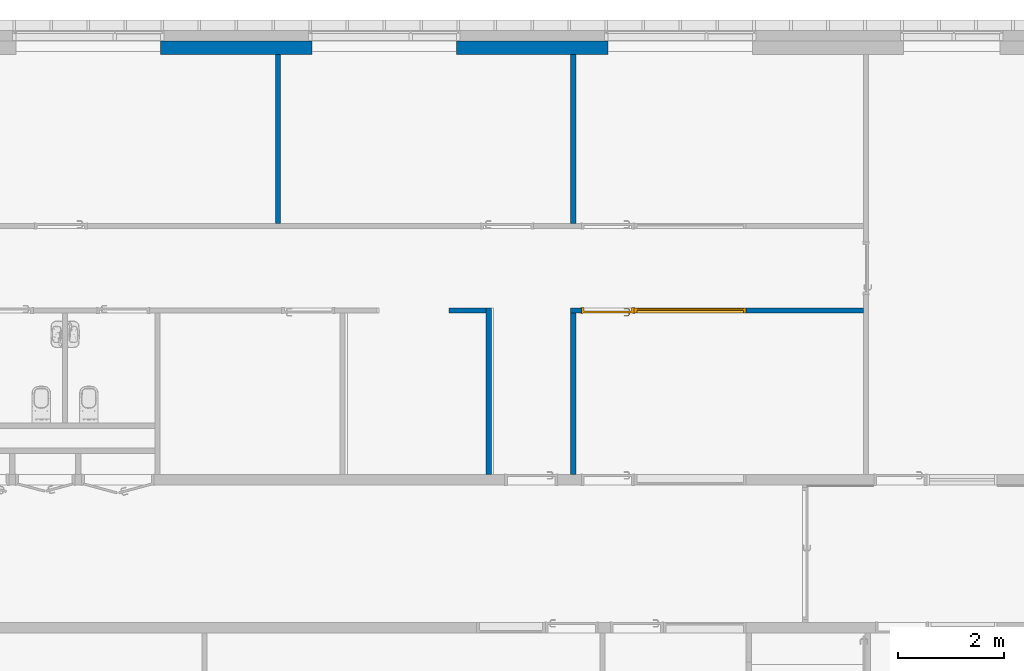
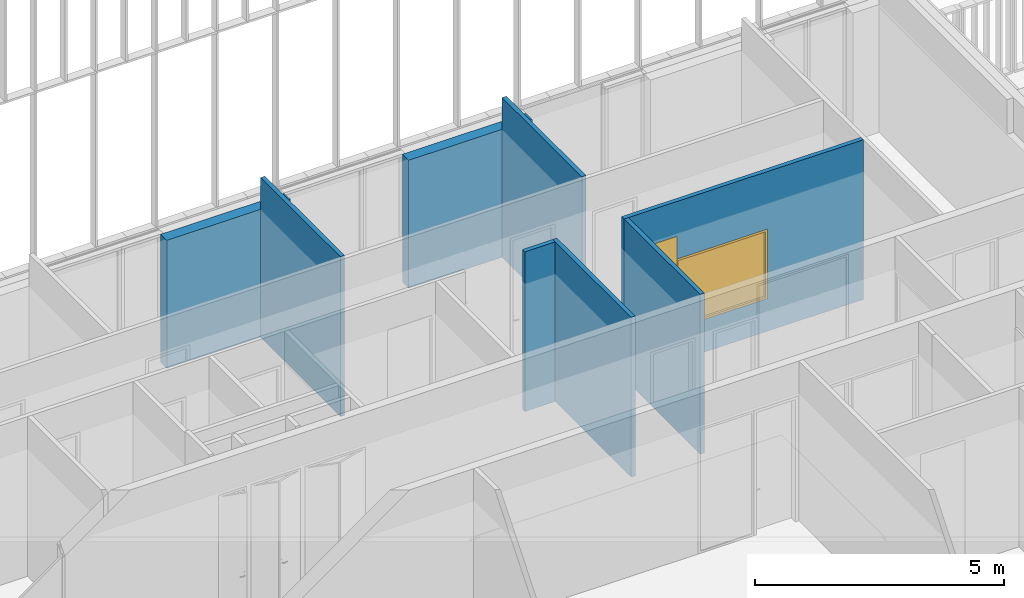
# One storey, part 156 of 240: 8 walls, 1 door, 1 window, 2 openings.
"""IFC2X3 building model written with IfcOpenShell, lengths in centimetres."""

from ifc_helpers import new_model, entity, si_unit, converted_unit, derived_unit, direction, frame, frame_2d, origin, place, context, subcontext, project, spatial, polyline, rectangle, extrude, clip, bounded_halfspace, faceted_brep, source, transform, mapped, material, material_list, layer, layer_set, layer_usage, type_object, type_shapes, element, fill, save


model = new_model("IFC2X3")

# Units and contexts
model_context = context("Model", 3, precision=0.001, world=origin(), true_north=direction((6.12303176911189e-17, 1.0)))
body_context = subcontext(model_context, "Body", "Model", "MODEL_VIEW")
ifc_project = project(units=[si_unit("LENGTHUNIT", "METRE", prefix="CENTI"), si_unit("AREAUNIT", "SQUARE_METRE"), si_unit("VOLUMEUNIT", "CUBIC_METRE"), converted_unit("PLANEANGLEUNIT", "DEGREE", entity("IfcRatioMeasure", 0.0174532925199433), si_unit("PLANEANGLEUNIT", "RADIAN"), dimensions=[0, 0, 0, 0, 0, 0, 0]), si_unit("MASSUNIT", "GRAM", prefix="KILO"), derived_unit("MASSDENSITYUNIT", [(si_unit("MASSUNIT", "GRAM", prefix="KILO"), 1), (si_unit("LENGTHUNIT", "METRE"), -3)]), si_unit("TIMEUNIT", "SECOND"), si_unit("FREQUENCYUNIT", "HERTZ"), si_unit("THERMODYNAMICTEMPERATUREUNIT", "DEGREE_CELSIUS"), derived_unit("THERMALTRANSMITTANCEUNIT", [(si_unit("MASSUNIT", "GRAM", prefix="KILO"), 1), (si_unit("THERMODYNAMICTEMPERATUREUNIT", "KELVIN"), -1), (si_unit("TIMEUNIT", "SECOND"), -3)]), derived_unit("VOLUMETRICFLOWRATEUNIT", [(si_unit("LENGTHUNIT", "METRE"), 3), (si_unit("TIMEUNIT", "SECOND"), -1)]), si_unit("ELECTRICCURRENTUNIT", "AMPERE"), si_unit("ELECTRICVOLTAGEUNIT", "VOLT"), si_unit("POWERUNIT", "WATT"), si_unit("FORCEUNIT", "NEWTON", prefix="KILO"), si_unit("ILLUMINANCEUNIT", "LUX"), si_unit("LUMINOUSFLUXUNIT", "LUMEN"), si_unit("LUMINOUSINTENSITYUNIT", "CANDELA"), derived_unit("USERDEFINED", [(si_unit("MASSUNIT", "GRAM", prefix="KILO"), -1), (si_unit("LENGTHUNIT", "METRE"), -2), (si_unit("TIMEUNIT", "SECOND"), 3), (si_unit("LUMINOUSFLUXUNIT", "LUMEN"), 1)]), derived_unit("LINEARVELOCITYUNIT", [(si_unit("LENGTHUNIT", "METRE"), 1), (si_unit("TIMEUNIT", "SECOND"), -1)]), si_unit("PRESSUREUNIT", "PASCAL"), derived_unit("USERDEFINED", [(si_unit("LENGTHUNIT", "METRE"), -2), (si_unit("MASSUNIT", "GRAM", prefix="KILO"), 1), (si_unit("TIMEUNIT", "SECOND"), -2)])], contexts=[model_context])

# Site, building, storey
site_placement = place(None, frame((-2781.94577612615, 7442.24238424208, 0.0)))
site = spatial("IfcSite", under=ifc_project, at=site_placement, Name="Default", CompositionType="ELEMENT")
building_placement = place(site_placement, origin())
building = spatial("IfcBuilding", under=site, at=building_placement, CompositionType="ELEMENT")
storey_placement = place(building_placement, origin())
storey = spatial("IfcBuildingStorey", under=building, at=storey_placement, Name="N00 - COO", CompositionType="ELEMENT", Elevation=0.0)

# Walls
ifc_material_1 = material(Name="01 - Maçonnerie")
ifc_layer_1 = layer(ifc_material_1, 25.0)
ifc_layer_set_1 = layer_set([ifc_layer_1], Name="Mur de base:04 - Structure - béton - 25cm")
ifc_layer_usage_1 = layer_usage(ifc_layer_set_1, "AXIS2", "NEGATIVE", 12.5)
wall_type_1 = type_object("IfcWallType", Name="Mur de base:04 - Structure - béton - 25cm", PredefinedType="STANDARD", material=ifc_layer_set_1)
wall_1_placement = place(building_placement, frame((-5606.24987760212, -2.49999999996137, 0.0), z_axis=(0.0, 0.0, 1.0), x_axis=(-1.0, 0.0, 0.0)))
element("IfcWallStandardCase", 1, at=wall_1_placement, inside=storey, type_object=wall_type_1, material=ifc_layer_usage_1, Name="Mur de base:04 - Structure - béton - 25cm", ObjectType="Mur de base:04 - Structure - béton - 25cm", context=body_context, shape_type="SweptSolid", body=[
    extrude(rectangle(XDim=286.500000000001, YDim=25.0, at=frame_2d((143.25, 0.0), x_axis=(-1.0, 0.0))), origin(), (0.0, 0.0, 1.0), 313.0),
])
ifc_layer_usage_2 = layer_usage(ifc_layer_set_1, "AXIS2", "NEGATIVE", 12.5)
wall_2_placement = place(building_placement, frame((-6166.24987760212, -2.49999999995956, 0.0), z_axis=(0.0, 0.0, 1.0), x_axis=(-1.0, 0.0, 0.0)))
element("IfcWallStandardCase", 2, at=wall_2_placement, inside=storey, type_object=wall_type_1, material=ifc_layer_usage_2, Name="Mur de base:04 - Structure - béton - 25cm", ObjectType="Mur de base:04 - Structure - béton - 25cm", context=body_context, shape_type="SweptSolid", body=[
    extrude(rectangle(XDim=286.500000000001, YDim=25.0, at=frame_2d((143.25, 0.0), x_axis=(-1.0, 0.0))), origin(), (0.0, 0.0, 1.0), 313.0),
])

# Wall, openings, door, window
ifc_material_2 = material(Name="01 - Enduit/Plâtre")
ifc_layer_2 = layer(ifc_material_2, 1.3)
ifc_material_3 = material(Name="00 - Isolant")
ifc_layer_3 = layer(ifc_material_3, 7.4)
ifc_layer_4 = layer(ifc_material_2, 1.3)
ifc_layer_set_2 = layer_set([ifc_layer_2, ifc_layer_3, ifc_layer_4], Name="Mur de base:06 - cloisons - Ba13 10cm")
ifc_layer_usage_3 = layer_usage(ifc_layer_set_2, "AXIS2", "NEGATIVE", 5.0)
wall_type_2 = type_object("IfcWallType", Name="Mur de base:06 - cloisons - Ba13 10cm", PredefinedType="STANDARD", material=ifc_layer_set_2)
wall_3_placement = place(building_placement, frame((-5122.49987760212, -500.0, 0.0), z_axis=(0.0, 0.0, 1.0), x_axis=(-1.0, 0.0, 0.0)))
wall_3 = element("IfcWallStandardCase", 3, at=wall_3_placement, inside=storey, type_object=wall_type_2, material=ifc_layer_usage_3, Name="Mur de base:06 - cloisons - Ba13 10cm", ObjectType="Mur de base:06 - cloisons - Ba13 10cm", context=body_context, shape_type="Clipping", body=[
    clip(extrude(rectangle(XDim=554.000000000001, YDim=10.0000000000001, at=frame_2d((277.0, 2.75335310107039e-14), x_axis=(-1.0, 0.0))), origin(), (0.0, 0.0, 1.0), 391.0), bounded_halfspace(frame((0.0, -5.0, 391.0), z_axis=(0.0, 0.0, -1.0), x_axis=(0.0, -1.0, 0.0)), True, frame((0.0, -5.0, 391.0)), polyline([(0.0, 0.0), (554.0, 0.0), (554.0, 10.0), (544.0, 10.0), (0.0, 10.0), (0.0, 0.0)]))),
])
opening_1_placement = place(wall_3_placement, frame((434.0, -5.0, 0.0)))
opening_1 = element("IfcOpeningElement", 4, at=opening_1_placement, cuts=wall_3, Name="Int. Simple:PV (0.93m x 3.00m):1", ObjectType="Opening", context=body_context, shape_type="SweptSolid", body=[
    extrude(rectangle(XDim=304.500000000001, YDim=99.9999999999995, at=frame_2d((152.250000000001, 49.9999999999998), x_axis=(1.0, 0.0))), frame((0.0, 0.0, 0.0), z_axis=(0.0, 1.0, 0.0), x_axis=(0.0, 0.0, 1.0)), (0.0, 0.0, 1.0), 10.0),
])
opening_2_placement = place(wall_3_placement, frame((222.0, -5.0, 80.0)))
opening_2 = element("IfcOpeningElement", 5, at=opening_2_placement, cuts=wall_3, Name="châssis intérieur vitré:châssis intérieur vitré (h=170):1", ObjectType="Opening", context=body_context, shape_type="SweptSolid", body=[
    extrude(rectangle(XDim=170.0, YDim=211.999999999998, at=frame_2d((84.9999999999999, 105.999999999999), x_axis=(1.0, 0.0))), frame((0.0, 0.0, 0.0), z_axis=(0.0, 1.0, 0.0), x_axis=(0.0, 0.0, 1.0)), (0.0, 0.0, 1.0), 10.0),
])
ifc_material_4 = material(Name="Finition Peinture - Blanc satiné")
ifc_material_5 = material(Name="Bois - Panneau de porte")
ifc_material_6 = material(Name="Bois - Cadre de porte")
ifc_material_list_1 = material_list([ifc_material_4, ifc_material_5, ifc_material_6])
ifc_material_list_2 = material_list([ifc_material_4, ifc_material_5, ifc_material_6])
door_style = type_object("IfcDoorStyle", Name="PV (0.93m x 3.00m)", ConstructionType="NOTDEFINED", OperationType="SINGLE_SWING_RIGHT", ParameterTakesPrecedence=False, Sizeable=False, material=ifc_material_list_2)
shared_shape_1 = source(origin(), body_context, "Body", "Brep", [
    faceted_brep([(99.5000000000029, -0.500000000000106, 87.0), (99.5000000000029, -0.500000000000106, 108.0), (98.535276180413, -0.500000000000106, 108.399601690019), (97.5000000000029, -0.500000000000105, 108.535898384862), (96.4647238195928, -0.500000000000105, 108.399601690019), (95.500000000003, -0.500000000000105, 108.0), (95.5000000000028, -0.500000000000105, 87.0), (96.4647238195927, -0.500000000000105, 86.6003983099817), (97.5000000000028, -0.500000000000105, 86.464101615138), (98.5352761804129, -0.500000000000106, 86.6003983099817), (99.5000000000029, 0.0, 108.0), (99.5000000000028, 0.0, 87.0), (98.5352761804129, 0.0, 86.6003983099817), (97.5000000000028, 0.0, 86.464101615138), (96.4647238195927, 0.0, 86.6003983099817), (95.5000000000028, 0.0, 87.0), (95.5000000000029, 0.0, 108.0), (96.4647238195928, 0.0, 108.399601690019), (97.5000000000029, 0.0, 108.535898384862), (98.535276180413, 0.0, 108.399601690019)], [[[0, 1, 2, 3, 4, 5, 6, 7, 8, 9]], [[10, 11, 12, 13, 14, 15, 16, 17, 18, 19]], [[9, 12, 11, 0]], [[8, 13, 12, 9]], [[7, 14, 13, 8]], [[7, 6, 15, 14]], [[15, 6, 5, 16]], [[4, 17, 16, 5]], [[3, 18, 17, 4]], [[2, 19, 18, 3]], [[2, 1, 10, 19]], [[11, 10, 1, 0]]]),
    faceted_brep([(99.5000000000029, 4.0, 87.0), (99.5000000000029, 4.0, 108.0), (98.535276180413, 4.0, 108.399601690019), (97.5000000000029, 4.0, 108.535898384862), (96.4647238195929, 4.0, 108.399601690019), (95.500000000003, 4.0, 108.0), (95.5000000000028, 4.0, 87.0), (96.4647238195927, 4.0, 86.6003983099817), (97.5000000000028, 4.0, 86.464101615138), (98.5352761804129, 4.0, 86.6003983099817), (97.5000000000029, 4.49999999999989, 108.535898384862), (98.535276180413, 4.49999999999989, 108.399601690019), (99.5000000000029, 4.49999999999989, 108.0), (99.5000000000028, 4.49999999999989, 87.0), (98.5352761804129, 4.49999999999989, 86.6003983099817), (97.5000000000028, 4.49999999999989, 86.464101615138), (96.4647238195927, 4.49999999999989, 86.6003983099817), (95.5000000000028, 4.49999999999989, 87.0), (95.500000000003, 4.49999999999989, 108.0), (96.4647238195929, 4.49999999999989, 108.399601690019)], [[[0, 1, 2, 3, 4, 5, 6, 7, 8, 9]], [[10, 11, 12, 13, 14, 15, 16, 17, 18, 19]], [[4, 19, 18, 5]], [[3, 10, 19, 4]], [[2, 11, 10, 3]], [[2, 1, 12, 11]], [[13, 12, 1, 0]], [[9, 14, 13, 0]], [[8, 15, 14, 9]], [[7, 16, 15, 8]], [[7, 6, 17, 16]], [[17, 6, 5, 18]]]),
    faceted_brep([(97.2974701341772, -0.50000000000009, 100.778044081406), (97.7025298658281, -0.500000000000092, 100.778044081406), (98.1000000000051, -0.500000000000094, 100.699999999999), (98.100000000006, -0.500000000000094, 99.2999999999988), (97.7025298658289, -0.500000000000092, 99.221955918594), (97.297470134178, -0.50000000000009, 99.2219559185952), (96.9000000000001, -0.500000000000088, 99.3000000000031), (96.9000000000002, -0.500000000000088, 100.7), (97.7025298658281, -3.10045754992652, 100.778044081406), (98.1000000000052, -3.26509507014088, 100.7), (97.2974701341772, -2.93267631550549, 100.778044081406), (95.9298602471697, -4.30028620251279, 100.778044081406), (96.0976414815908, -4.70534593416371, 100.778044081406), (96.9000000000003, -2.76803879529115, 100.7), (96.9000000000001, -2.76803879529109, 99.3000000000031), (97.297470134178, -2.93267631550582, 99.2219559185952), (97.7025298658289, -3.10045754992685, 99.221955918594), (96.0976414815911, -4.70534593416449, 99.221955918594), (95.9298602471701, -4.30028620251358, 99.2219559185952), (98.100000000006, -3.26509507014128, 99.2999999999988), (96.2622790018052, -5.10281606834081, 100.7), (95.7652227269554, -3.90281606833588, 100.7), (95.7652227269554, -3.90281606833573, 99.3000000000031), (96.2622790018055, -5.10281606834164, 99.2999999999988), (87.4981359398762, -5.10281606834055, 100.7), (87.4981359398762, -4.70534593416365, 100.778044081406), (87.4981359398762, -4.30028620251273, 100.778044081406), (87.4981359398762, -3.90281606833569, 100.699999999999), (87.4981359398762, -3.90281606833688, 99.3000000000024), (87.4981359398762, -4.30028620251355, 99.2219559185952), (87.4981359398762, -4.70534593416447, 99.221955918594), (87.4981359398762, -5.10281606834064, 99.2999999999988), (91.7139980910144, -4.5028160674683, 100.78786867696), (92.2692302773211, -5.1028160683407, 100.7), (91.6316793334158, -3.9028160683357, 100.7), (91.631679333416, -3.9028160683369, 99.3000000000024), (91.7139981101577, -4.50281607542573, 99.2121313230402), (92.2692310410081, -5.10281606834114, 99.2999999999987)], [[[0, 1, 2, 3, 4, 5, 6, 7]], [[2, 1, 8, 9]], [[1, 0, 10, 11, 12, 8]], [[0, 7, 13, 10]], [[14, 13, 7, 6]], [[5, 15, 14, 6]], [[5, 4, 16, 17, 18, 15]], [[3, 19, 16, 4]], [[9, 19, 3, 2]], [[9, 8, 12, 20]], [[10, 13, 21, 11]], [[22, 21, 13, 14]], [[14, 15, 18, 22]], [[16, 19, 23, 17]], [[20, 23, 19, 9]], [[24, 25, 26, 27, 28, 29, 30, 31]], [[32, 25, 33]], [[33, 25, 24]], [[33, 20, 12]], [[11, 34, 32]], [[34, 11, 21]], [[27, 26, 34]], [[32, 26, 25]], [[32, 34, 26]], [[32, 33, 12]], [[11, 32, 12]], [[21, 22, 35, 28, 27, 34]], [[36, 29, 35]], [[30, 36, 37]], [[18, 35, 22]], [[29, 28, 35]], [[30, 37, 31]], [[37, 17, 23]], [[36, 17, 37]], [[36, 18, 17]], [[36, 35, 18]], [[29, 36, 30]], [[23, 20, 33, 24, 31, 37]]]),
    faceted_brep([(97.2974701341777, 4.49999999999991, 99.2219559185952), (97.7025298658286, 4.49999999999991, 99.221955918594), (98.1000000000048, 4.4999999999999, 99.2999999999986), (98.1000000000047, 4.4999999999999, 100.7), (97.7025298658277, 4.49999999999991, 100.778044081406), (97.2974701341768, 4.49999999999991, 100.778044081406), (96.8999999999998, 4.49999999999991, 100.7), (96.900000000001, 4.49999999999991, 99.3000000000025), (96.8999999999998, 6.7485204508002, 100.7), (96.8999999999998, 6.74852045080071, 99.3000000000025), (97.2974701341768, 6.91315797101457, 100.778044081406), (97.7025298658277, 7.0809392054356, 100.778044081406), (96.0838906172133, 8.69957845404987, 100.778044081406), (95.9161093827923, 8.29451872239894, 100.778044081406), (98.1000000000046, 7.24557672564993, 100.7), (98.1000000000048, 7.24557672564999, 99.2999999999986), (97.7025298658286, 7.08093920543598, 99.221955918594), (97.2974701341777, 6.91315797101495, 99.2219559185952), (95.9161093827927, 8.29451872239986, 99.2219559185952), (96.0838906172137, 8.69957845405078, 99.221955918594), (95.751471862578, 7.89704858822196, 100.7), (95.7514718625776, 7.89704858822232, 99.3000000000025), (96.2485281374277, 9.09704858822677, 100.7), (96.2485281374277, 9.09704858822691, 99.2999999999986), (87.4954216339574, 8.29451872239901, 100.778044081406), (87.4954216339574, 8.69957845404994, 100.778044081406), (87.4954216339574, 9.09704858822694, 100.7), (87.4954216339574, 9.09704858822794, 99.2999999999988), (87.4954216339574, 8.6995784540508, 99.221955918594), (87.4954216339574, 8.29451872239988, 99.2219559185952), (87.4954216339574, 7.89704858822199, 99.3000000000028), (87.4954216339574, 7.89704858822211, 100.7), (91.6234467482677, 7.89704858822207, 100.7), (91.6234479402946, 7.89704858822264, 99.3000000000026), (91.7057655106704, 8.49704858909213, 100.78786867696), (92.255479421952, 9.09704858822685, 100.7), (92.2554795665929, 9.09704858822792, 99.2999999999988), (91.7057654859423, 8.49704858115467, 99.2121313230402)], [[[0, 1, 2, 3, 4, 5, 6, 7]], [[8, 9, 7, 6]], [[5, 10, 8, 6]], [[5, 4, 11, 12, 13, 10]], [[3, 14, 11, 4]], [[14, 3, 2, 15]], [[2, 1, 16, 15]], [[1, 0, 17, 18, 19, 16]], [[0, 7, 9, 17]], [[20, 21, 9, 8]], [[8, 10, 13, 20]], [[14, 22, 12, 11]], [[23, 22, 14, 15]], [[15, 16, 19, 23]], [[17, 9, 21, 18]], [[24, 25, 26, 27, 28, 29, 30, 31]], [[21, 20, 32, 31, 30, 33]], [[34, 24, 32]], [[25, 34, 35]], [[13, 32, 20]], [[24, 31, 32]], [[25, 35, 26]], [[35, 12, 22]], [[34, 12, 35]], [[34, 13, 12]], [[34, 32, 13]], [[24, 34, 25]], [[22, 23, 36, 27, 26, 35]], [[37, 28, 36]], [[36, 28, 27]], [[36, 23, 19]], [[18, 33, 37]], [[33, 18, 21]], [[30, 29, 33]], [[37, 29, 28]], [[37, 33, 29]], [[37, 36, 19]], [[18, 37, 19]]]),
    faceted_brep([(103.500000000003, 4.0, 301.0), (103.500000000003, 4.0, 0.0), (10.5000000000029, 4.0, 0.0), (10.5000000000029, 4.0, 301.0), (103.500000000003, 0.0, 301.0), (10.5000000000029, 0.0, 301.0), (10.5000000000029, 0.0, 0.0), (103.500000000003, 0.0, 0.0)], [[[0, 1, 2, 3]], [[4, 5, 6, 7]], [[3, 5, 4, 0]], [[2, 6, 5, 3]], [[1, 7, 6, 2]], [[0, 4, 7, 1]]]),
    faceted_brep([(107.0, 10.0, 0.0), (107.0, 0.0, 0.0), (108.500000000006, 0.0, 0.0), (108.500000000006, -0.500000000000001, 0.0), (103.500000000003, -0.500000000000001, 0.0), (103.500000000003, 4.0, 0.0), (102.0, 4.0, 0.0), (102.0, 10.5000000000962, 0.0), (108.500000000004, 10.5000000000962, 0.0), (108.500000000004, 10.0, 0.0), (108.500000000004, 10.0, 306.0), (5.50000000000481, 10.0, 306.0), (5.50000000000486, 10.0, 0.0), (7.0, 10.0, 0.0), (7.0, 10.0, 304.500000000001), (107.0, 10.0, 304.500000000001), (108.500000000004, 10.5000000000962, 306.0), (102.0, 10.5000000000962, 299.5), (12.0, 10.5000000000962, 299.5), (12.0, 10.5000000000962, 0.0), (5.50000000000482, 10.5000000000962, 0.0), (5.50000000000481, 10.5000000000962, 306.0), (102.0, 4.0, 299.5), (103.500000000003, 4.0, 301.0), (10.5000000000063, 4.0, 301.0), (10.5000000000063, 4.0, 0.0), (12.0, 4.0, 0.0), (12.0, 4.0, 299.5), (103.500000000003, -0.500000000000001, 301.0), (108.500000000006, -0.500000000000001, 306.0), (5.5000000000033, -0.500000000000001, 306.0), (5.50000000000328, -0.500000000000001, 0.0), (10.5000000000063, -0.500000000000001, 0.0), (10.5000000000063, -0.500000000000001, 301.0), (108.500000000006, 0.0, 306.0), (107.0, 0.0, 304.500000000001), (7.0, 0.0, 304.500000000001), (7.0, 0.0, 0.0), (5.5000000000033, 0.0, 0.0), (5.50000000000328, 0.0, 306.0)], [[[0, 1, 2, 3, 4, 5, 6, 7, 8, 9]], [[9, 10, 11, 12, 13, 14, 15, 0]], [[8, 16, 10, 9]], [[7, 17, 18, 19, 20, 21, 16, 8]], [[7, 6, 22, 17]], [[5, 23, 24, 25, 26, 27, 22, 6]], [[5, 4, 28, 23]], [[3, 29, 30, 31, 32, 33, 28, 4]], [[2, 34, 29, 3]], [[1, 35, 36, 37, 38, 39, 34, 2]], [[0, 15, 35, 1]], [[14, 13, 37, 36]], [[13, 12, 20, 19, 26, 25, 32, 31, 38, 37]], [[21, 20, 12, 11]], [[27, 26, 19, 18]], [[33, 32, 25, 24]], [[39, 38, 31, 30]], [[15, 14, 36, 35]], [[16, 21, 11, 10]], [[22, 27, 18, 17]], [[28, 33, 24, 23]], [[34, 39, 30, 29]]]),
])
type_shapes(door_style, [shared_shape_1])
door_placement = place(opening_1_placement, frame((107.0, 10.0, 0.0), z_axis=(0.0, 0.0, 1.0), x_axis=(-1.0, 0.0, 0.0)))
door = element("IfcDoor", 6, at=door_placement, inside=storey, type_object=door_style, material=ifc_material_list_1, Name="Int. Simple:PV (0.93m x 3.00m)", ObjectType="Int. Simple:PV (0.93m x 3.00m)", OverallHeight=304.500000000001, OverallWidth=99.9999999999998, context=body_context, shape_type="MappedRepresentation", body=[
    mapped(shared_shape_1, transform((0.0, 0.0, 0.0), scale=1.0)),
])
fill(opening_1, door)
ifc_material_7 = material(Name="Verre")
ifc_material_8 = material(Name="huisserie bois")
ifc_material_list_3 = material_list([ifc_material_7, ifc_material_8])
ifc_material_list_4 = material_list([ifc_material_7, ifc_material_8])
window_style = type_object("IfcWindowStyle", Name="châssis intérieur vitré (h=170)", ConstructionType="NOTDEFINED", OperationType="NOTDEFINED", ParameterTakesPrecedence=False, Sizeable=False, material=ifc_material_list_4)
shared_shape_2 = source(origin(), body_context, "Body", "Brep", [
    faceted_brep([(209.0, 5.0, 167.0), (209.0, 5.0, 3.0), (3.0, 5.0, 3.0), (3.0, 5.0, 167.0), (209.0, 2.0, 167.0), (209.0, 2.0, 3.0), (3.0, 2.0, 3.0), (3.0, 2.0, 167.0)], [[[0, 1, 2, 3]], [[1, 0, 4, 5]], [[2, 1, 5, 6]], [[3, 2, 6, 7]], [[4, 7, 6, 5]], [[0, 3, 7, 4]]]),
    faceted_brep([(209.0, 2.0, 167.0), (209.0, 0.0, 167.0), (209.0, 0.0, 3.0), (209.0, 2.0, 3.0), (207.0, 0.0, 5.0), (5.0, 0.0, 5.0), (5.0, 0.0, 165.0), (207.0, 0.0, 165.0), (3.0, 0.0, 167.0), (3.0, 0.0, 3.0), (3.0, 2.0, 3.0), (3.0, 2.0, 167.0), (207.0, 2.0, 165.0), (5.0, 2.0, 165.0), (5.0, 2.0, 5.0), (207.0, 2.0, 5.0)], [[[0, 1, 2, 3]], [[4, 5, 6, 7], [1, 8, 9, 2]], [[3, 2, 9, 10]], [[3, 10, 11, 0], [12, 13, 14, 15]], [[7, 12, 15, 4]], [[4, 15, 14, 5]], [[10, 9, 8, 11]], [[5, 14, 13, 6]], [[11, 8, 1, 0]], [[6, 13, 12, 7]]], outer=[[True], [False, True], [True], [True, False], [True], [True], [True], [True], [True], [True]]),
    faceted_brep([(207.0, 5.0, 165.0), (207.0, 10.0, 165.0), (207.0, 10.0, 5.0), (207.0, 5.0, 5.0), (212.0, 10.0, 0.0), (0.0, 10.0, 0.0), (0.0, 10.0, 170.0), (212.0, 10.0, 170.0), (5.0, 10.0, 165.0), (5.0, 10.0, 5.0), (5.0, 5.0, 5.0), (5.0, 5.0, 165.0), (209.0, 5.0, 167.0), (3.0, 5.0, 167.0), (3.0, 5.0, 3.0), (209.0, 5.0, 3.0), (209.0, 0.0, 167.0), (209.0, 0.0, 3.0), (3.0, 0.0, 3.0), (3.0, 0.0, 167.0), (212.0, 0.0, 170.0), (0.0, 0.0, 170.0), (0.0, 0.0, 0.0), (212.0, 0.0, 0.0)], [[[0, 1, 2, 3]], [[4, 5, 6, 7], [1, 8, 9, 2]], [[3, 2, 9, 10]], [[3, 10, 11, 0], [12, 13, 14, 15]], [[16, 12, 15, 17]], [[17, 15, 14, 18]], [[17, 18, 19, 16], [20, 21, 22, 23]], [[7, 20, 23, 4]], [[4, 23, 22, 5]], [[10, 9, 8, 11]], [[18, 14, 13, 19]], [[5, 22, 21, 6]], [[11, 8, 1, 0]], [[19, 13, 12, 16]], [[6, 21, 20, 7]]], outer=[[True], [True, False], [True], [False, True], [True], [True], [False, True], [True], [True], [True], [True], [True], [True], [True], [True]]),
])
type_shapes(window_style, [shared_shape_2])
window_placement = place(opening_2_placement, origin())
window = element("IfcWindow", 7, at=window_placement, inside=storey, type_object=window_style, material=ifc_material_list_3, Name="châssis intérieur vitré:châssis intérieur vitré (h=170)", ObjectType="châssis intérieur vitré:châssis intérieur vitré (h=170)", OverallHeight=170.0, OverallWidth=211.999999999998, context=body_context, shape_type="MappedRepresentation", body=[
    mapped(shared_shape_2, transform((0.0, 0.0, 0.0), scale=1.0)),
])
fill(opening_2, window)

# Walls
ifc_layer_usage_4 = layer_usage(ifc_layer_set_2, "AXIS2", "NEGATIVE", 5.0)
wall_4_placement = place(building_placement, frame((-5671.49987760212, -335.0, 0.0), z_axis=(0.0, 0.0, 1.0), x_axis=(0.0, 1.0, 0.0)))
element("IfcWallStandardCase", 8, at=wall_4_placement, inside=storey, type_object=wall_type_2, material=ifc_layer_usage_4, Name="Mur de base:06 - cloisons - Ba13 10cm", ObjectType="Mur de base:06 - cloisons - Ba13 10cm", context=body_context, shape_type="Clipping", body=[
    clip(extrude(rectangle(XDim=320.0, YDim=9.99999999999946, at=frame_2d((160.0, -8.88178419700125e-16), x_axis=(-1.0, 0.0))), origin(), (0.0, 0.0, 1.0), 391.0), bounded_halfspace(frame((0.0, -5.0, 391.0), z_axis=(0.0, 0.0, -1.0), x_axis=(1.0, 0.0, 0.0)), True, frame((0.0, -5.0, 391.0)), polyline([(0.0, 0.0), (320.0, 0.0), (320.0, 10.0), (0.0, 10.0), (0.0, 0.0)]))),
])
ifc_layer_usage_5 = layer_usage(ifc_layer_set_2, "AXIS2", "NEGATIVE", 5.0)
wall_5_placement = place(building_placement, frame((-6230.49987760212, -335.0, 0.0), z_axis=(0.0, 0.0, 1.0), x_axis=(0.0, 1.0, 0.0)))
element("IfcWallStandardCase", 9, at=wall_5_placement, inside=storey, type_object=wall_type_2, material=ifc_layer_usage_5, Name="Mur de base:06 - cloisons - Ba13 10cm", ObjectType="Mur de base:06 - cloisons - Ba13 10cm", context=body_context, shape_type="Clipping", body=[
    clip(extrude(rectangle(XDim=320.0, YDim=9.99999999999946, at=frame_2d((160.0, -1.28785870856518e-14), x_axis=(-1.0, 0.0))), origin(), (0.0, 0.0, 1.0), 391.0), bounded_halfspace(frame((0.0, -5.0, 391.0), z_axis=(0.0, 0.0, -1.0), x_axis=(1.0, 0.0, 0.0)), True, frame((0.0, -5.0, 391.0)), polyline([(0.0, 0.0), (320.0, 0.0), (320.0, 10.0), (0.0, 10.0), (0.0, 0.0)]))),
])
ifc_layer_usage_6 = layer_usage(ifc_layer_set_2, "AXIS2", "NEGATIVE", 5.0)
wall_6_placement = place(building_placement, frame((-5671.49987760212, -505.0, 0.0), z_axis=(0.0, 0.0, 1.0), x_axis=(0.0, -1.0, 0.0)))
element("IfcWallStandardCase", 10, at=wall_6_placement, inside=storey, type_object=wall_type_2, material=ifc_layer_usage_6, Name="Mur de base:06 - cloisons - Ba13 10cm", ObjectType="Mur de base:06 - cloisons - Ba13 10cm", context=body_context, shape_type="Clipping", body=[
    clip(extrude(rectangle(XDim=305.048500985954, YDim=9.99999999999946, at=frame_2d((152.524250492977, 7.54951656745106e-15), x_axis=(-1.0, 0.0))), origin(), (0.0, 0.0, 1.0), 391.0), bounded_halfspace(frame((0.0, -5.0, 391.0), z_axis=(0.0, 0.0, -1.0), x_axis=(-1.0, 0.0, 0.0)), True, frame((0.0, -5.0, 391.0)), polyline([(0.0, 0.0), (305.048500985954, 0.0), (305.048500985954, 10.0), (0.0, 10.0), (0.0, 0.0)]))),
])
ifc_layer_usage_7 = layer_usage(ifc_layer_set_2, "AXIS2", "NEGATIVE", 5.0)
wall_7_placement = place(building_placement, frame((-5831.49987760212, -495.0, 0.0), z_axis=(0.0, 0.0, 1.0), x_axis=(0.0, -1.0, 0.0)))
element("IfcWallStandardCase", 11, at=wall_7_placement, inside=storey, type_object=wall_type_2, material=ifc_layer_usage_7, Name="Mur de base:06 - cloisons - Ba13 10cm", ObjectType="Mur de base:06 - cloisons - Ba13 10cm", context=body_context, shape_type="Clipping", body=[
    clip(extrude(rectangle(XDim=315.048500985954, YDim=9.99999999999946, at=frame_2d((157.524250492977, 2.17603712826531e-14), x_axis=(-1.0, 0.0))), origin(), (0.0, 0.0, 1.0), 391.0), bounded_halfspace(frame((0.0, -5.0, 391.0), z_axis=(0.0, 0.0, -1.0), x_axis=(-1.0, 0.0, 0.0)), True, frame((0.0, -5.0, 391.0)), polyline([(0.0, 0.0), (10.0, 0.0), (315.048500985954, 0.0), (315.048500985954, 10.0), (0.0, 10.0), (0.0, 0.0)]))),
])
ifc_layer_usage_8 = layer_usage(ifc_layer_set_2, "AXIS2", "POSITIVE", -5.0)
wall_8_placement = place(building_placement, frame((-5836.49987760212, -500.0, 0.0), z_axis=(0.0, 0.0, 1.0), x_axis=(-1.0, 0.0, 0.0)))
element("IfcWallStandardCase", 12, at=wall_8_placement, inside=storey, type_object=wall_type_2, material=ifc_layer_usage_8, Name="Mur de base:06 - cloisons - Ba13 10cm", ObjectType="Mur de base:06 - cloisons - Ba13 10cm", context=body_context, shape_type="Clipping", body=[
    clip(extrude(rectangle(XDim=69.9999999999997, YDim=10.0000000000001, at=frame_2d((34.9999999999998, 4.88498130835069e-15), x_axis=(-1.0, 0.0))), origin(), (0.0, 0.0, 1.0), 391.0), bounded_halfspace(frame((0.0, -5.0, 391.0), z_axis=(0.0, 0.0, -1.0), x_axis=(0.0, -1.0, 0.0)), True, frame((0.0, -5.0, 391.0)), polyline([(0.0, 0.0), (70.0, 0.0), (70.0, 10.0), (0.0, 10.0), (0.0, 0.0)]))),
])

save(model, "model.ifc")
